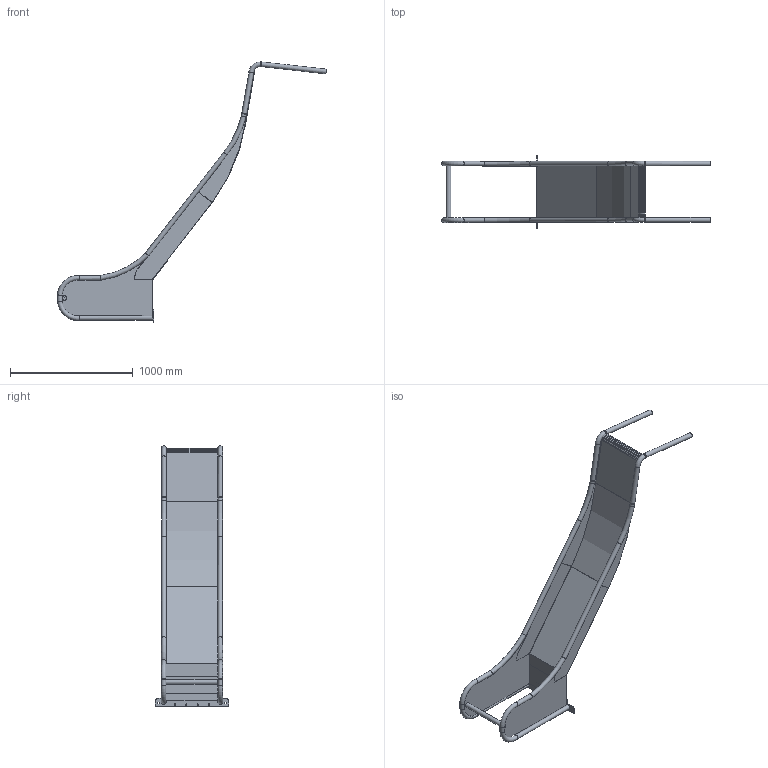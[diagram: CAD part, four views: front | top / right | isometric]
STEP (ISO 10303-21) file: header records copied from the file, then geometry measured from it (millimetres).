
FILE_DESCRIPTION(/* description */ (''),/* implementation_level */ '2;1');
FILE_NAME(/* name */ 'F:\_Inventor\- Tegningsmateriale - kunder\PlayNsafe\PlayNsafe Rutchebaner\120-1000-500 (B500 H900-100 med ører)\120-1000-500.stp',/* time_stamp */ '2026-09-02T10:20:06+02:00',/* author */ ('jm'),/* organization */ (''),/* preprocessor_version */ 'ST-DEVELOPER v18.1',/* originating_system */ 'Autodesk Inventor 2022',/* authorisation */ '');
FILE_SCHEMA (('AUTOMOTIVE_DESIGN { 1 0 10303 214 3 1 1 }'));
Length unit declared in the file: millimetre
Products named in the file (11): 120-1000-500; playnsafe udløb; Lb2200 venstre; bund model til step; udløb til LB2200 model til step; forlængerplade til lang siddeområde; playnsafe høje ører; monterings plade til model med høje øre; lang siddeområde rør; 100-1000-500 indløb; 120-1000-500 rør
Assembly tree (13 placements, depth 3):
  120-1000-500
    playnsafe udløb
      Lb2200 venstre  x2
      bund model til step
      udløb til LB2200 model til step
    forlængerplade til lang siddeområde
    playnsafe høje ører  x2
    monterings plade til model med høje øre
    lang siddeområde rør
    100-1000-500 indløb
    120-1000-500 rør  x2
Bounding box: 2190.06 x 595 x 2118.65 mm (x, y, z)
Volume: 13373779.5 mm3; surface area: 4910929.9 mm2
Topology: 12 solids, 12 shells, 283 faces, 665 edges, 409 vertices
Faces by surface type: plane 165, cylinder 94, bspline 10, torus 10, cone 4
Full cylindrical faces by diameter (mm): 2 x2, 6 x4, 34 x1, 38 x21
Entity records: 8610 total; most frequent: CARTESIAN_POINT 2771, DIRECTION 1180, ORIENTED_EDGE 1098, EDGE_CURVE 549, AXIS2_PLACEMENT_3D 405, LINE 370, VECTOR 370, VERTEX_POINT 332
